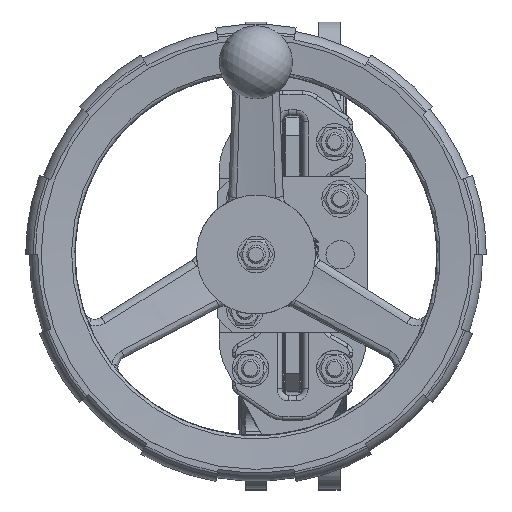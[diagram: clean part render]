
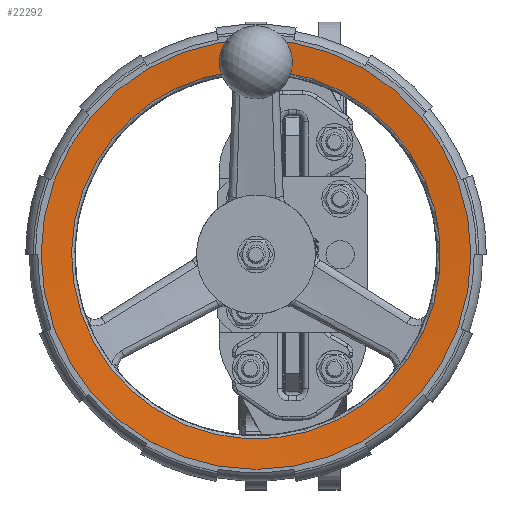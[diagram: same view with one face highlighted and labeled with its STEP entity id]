
A CAD part, top view. The second image highlights one B-rep face of the part: STEP entity #22292.
In plain terms, the highlighted conical face has half-angle 85 degrees and reference radius 108.387 mm.
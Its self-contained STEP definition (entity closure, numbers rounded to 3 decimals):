
#358=B_SPLINE_CURVE_WITH_KNOTS('',3,(#35971,#35972,#35973,#35974,#35975,
#35976),.UNSPECIFIED.,.F.,.F.,(4,2,4),(4.752,4.964,
5.265),.UNSPECIFIED.);
#359=B_SPLINE_CURVE_WITH_KNOTS('',3,(#35980,#35981,#35982,#35983,#35984,
#35985,#35986),.UNSPECIFIED.,.F.,.F.,(4,3,4),(-0.301,0.,0.212),
 .UNSPECIFIED.);
#1228=LINE('',#36111,#2967);
#2967=VECTOR('',#26792,108.387);
#4698=(
BOUNDED_CURVE()
B_SPLINE_CURVE(2,(#36044,#36045,#36046),.UNSPECIFIED.,.F.,.F.)
B_SPLINE_CURVE_WITH_KNOTS((3,3),(23.554,23.704),
 .UNSPECIFIED.)
CURVE()
GEOMETRIC_REPRESENTATION_ITEM()
RATIONAL_B_SPLINE_CURVE((1.109,1.066,1.022))
REPRESENTATION_ITEM('')
);
#4699=(
BOUNDED_CURVE()
B_SPLINE_CURVE(2,(#36106,#36107,#36108),.UNSPECIFIED.,.F.,.F.)
B_SPLINE_CURVE_WITH_KNOTS((3,3),(0.038,0.188),
 .UNSPECIFIED.)
CURVE()
GEOMETRIC_REPRESENTATION_ITEM()
RATIONAL_B_SPLINE_CURVE((1.022,1.066,1.109))
REPRESENTATION_ITEM('')
);
#4741=CONICAL_SURFACE('',#23786,108.387,1.484);
#5087=FACE_OUTER_BOUND('',#6437,.T.);
#6437=EDGE_LOOP('',(#15535,#15536,#15537,#15538,#15539,#15540,#15541,#15542,
#15543,#15544,#15545));
#7747=CIRCLE('',#23678,100.845);
#7748=CIRCLE('',#23679,100.845);
#7829=CIRCLE('',#23775,116.419);
#7833=CIRCLE('',#23787,117.5);
#7834=CIRCLE('',#23788,117.5);
#9089=VERTEX_POINT('',#33639);
#9092=VERTEX_POINT('',#33655);
#9093=VERTEX_POINT('',#33666);
#9201=VERTEX_POINT('',#35907);
#9202=VERTEX_POINT('',#35908);
#9213=VERTEX_POINT('',#35970);
#9214=VERTEX_POINT('',#35978);
#9221=VERTEX_POINT('',#36110);
#9222=VERTEX_POINT('',#36112);
#11401=EDGE_CURVE('',#9092,#9093,#7747,.T.);
#11402=EDGE_CURVE('',#9093,#9089,#7748,.T.);
#11578=EDGE_CURVE('',#9201,#9202,#7829,.T.);
#11592=EDGE_CURVE('',#9213,#9089,#358,.T.);
#11595=EDGE_CURVE('',#9092,#9214,#359,.T.);
#11600=EDGE_CURVE('',#9214,#9201,#4698,.T.);
#11606=EDGE_CURVE('',#9202,#9213,#4699,.T.);
#11607=EDGE_CURVE('',#9093,#9221,#1228,.T.);
#11608=EDGE_CURVE('',#9222,#9221,#7833,.T.);
#11609=EDGE_CURVE('',#9221,#9222,#7834,.T.);
#15535=ORIENTED_EDGE('',*,*,#11401,.F.);
#15536=ORIENTED_EDGE('',*,*,#11595,.T.);
#15537=ORIENTED_EDGE('',*,*,#11600,.T.);
#15538=ORIENTED_EDGE('',*,*,#11578,.T.);
#15539=ORIENTED_EDGE('',*,*,#11606,.T.);
#15540=ORIENTED_EDGE('',*,*,#11592,.T.);
#15541=ORIENTED_EDGE('',*,*,#11402,.F.);
#15542=ORIENTED_EDGE('',*,*,#11607,.T.);
#15543=ORIENTED_EDGE('',*,*,#11608,.F.);
#15544=ORIENTED_EDGE('',*,*,#11609,.F.);
#15545=ORIENTED_EDGE('',*,*,#11607,.F.);
#22292=ADVANCED_FACE('',(#5087),#4741,.F.);
#23678=AXIS2_PLACEMENT_3D('',#33667,#26564,#26565);
#23679=AXIS2_PLACEMENT_3D('',#33668,#26566,#26567);
#23775=AXIS2_PLACEMENT_3D('',#35909,#26760,#26761);
#23786=AXIS2_PLACEMENT_3D('',#36109,#26790,#26791);
#23787=AXIS2_PLACEMENT_3D('',#36113,#26793,#26794);
#23788=AXIS2_PLACEMENT_3D('',#36114,#26795,#26796);
#26564=DIRECTION('center_axis',(0.,0.,
1.));
#26565=DIRECTION('ref_axis',(0.,-1.,0.));
#26566=DIRECTION('center_axis',(0.,0.,
1.));
#26567=DIRECTION('ref_axis',(0.,-1.,0.));
#26760=DIRECTION('center_axis',(0.,0.,
-1.));
#26761=DIRECTION('ref_axis',(0.866,-0.5,0.));
#26790=DIRECTION('center_axis',(0.,0.,
1.));
#26791=DIRECTION('ref_axis',(0.866,-0.5,0.));
#26792=DIRECTION('',(-0.863,0.498,0.087));
#26793=DIRECTION('center_axis',(0.,0.,
-1.));
#26794=DIRECTION('ref_axis',(0.866,-0.5,0.));
#26795=DIRECTION('center_axis',(0.,0.,
-1.));
#26796=DIRECTION('ref_axis',(0.866,-0.5,0.));
#33639=CARTESIAN_POINT('',(-5.91,99.855,460.637));
#33655=CARTESIAN_POINT('',(-34.09,99.855,460.637));
#33666=CARTESIAN_POINT('',(-107.334,50.422,460.637));
#33667=CARTESIAN_POINT('Origin',(-20.,0.,
460.637));
#33668=CARTESIAN_POINT('Origin',(-20.,0.,
460.637));
#35907=CARTESIAN_POINT('',(-35.,115.448,462.));
#35908=CARTESIAN_POINT('',(-5.,115.448,462.));
#35909=CARTESIAN_POINT('Origin',(-20.,0.,
462.));
#35970=CARTESIAN_POINT('',(-5.,105.,461.094));
#35971=CARTESIAN_POINT('Ctrl Pts',(-5.,105.,461.094));
#35972=CARTESIAN_POINT('Ctrl Pts',(-5.,104.273,461.031));
#35973=CARTESIAN_POINT('Ctrl Pts',(-5.053,103.554,460.968));
#35974=CARTESIAN_POINT('Ctrl Pts',(-5.297,101.868,460.819));
#35975=CARTESIAN_POINT('Ctrl Pts',(-5.547,100.849,460.728));
#35976=CARTESIAN_POINT('Ctrl Pts',(-5.91,99.855,460.637));
#35978=CARTESIAN_POINT('',(-35.,105.,461.094));
#35980=CARTESIAN_POINT('Ctrl Pts',(-34.09,99.855,460.637));
#35981=CARTESIAN_POINT('Ctrl Pts',(-34.453,100.849,460.728));
#35982=CARTESIAN_POINT('Ctrl Pts',(-34.703,101.868,460.819));
#35983=CARTESIAN_POINT('Ctrl Pts',(-34.846,102.857,460.907));
#35984=CARTESIAN_POINT('Ctrl Pts',(-34.947,103.554,460.968));
#35985=CARTESIAN_POINT('Ctrl Pts',(-35.,104.273,461.031));
#35986=CARTESIAN_POINT('Ctrl Pts',(-35.,105.,461.094));
#36044=CARTESIAN_POINT('Ctrl Pts',(-35.,105.,461.094));
#36045=CARTESIAN_POINT('Ctrl Pts',(-35.,109.981,461.526));
#36046=CARTESIAN_POINT('Ctrl Pts',(-35.,115.448,462.));
#36106=CARTESIAN_POINT('Ctrl Pts',(-5.,115.448,462.));
#36107=CARTESIAN_POINT('Ctrl Pts',(-5.,109.981,461.526));
#36108=CARTESIAN_POINT('Ctrl Pts',(-5.,105.,461.094));
#36109=CARTESIAN_POINT('Origin',(-20.,0.,
461.297));
#36110=CARTESIAN_POINT('',(-121.758,58.75,462.095));
#36111=CARTESIAN_POINT('',(-113.866,54.193,461.297));
#36112=CARTESIAN_POINT('',(81.758,-58.75,462.095));
#36113=CARTESIAN_POINT('Origin',(-20.,0.,
462.095));
#36114=CARTESIAN_POINT('Origin',(-20.,0.,
462.095));
